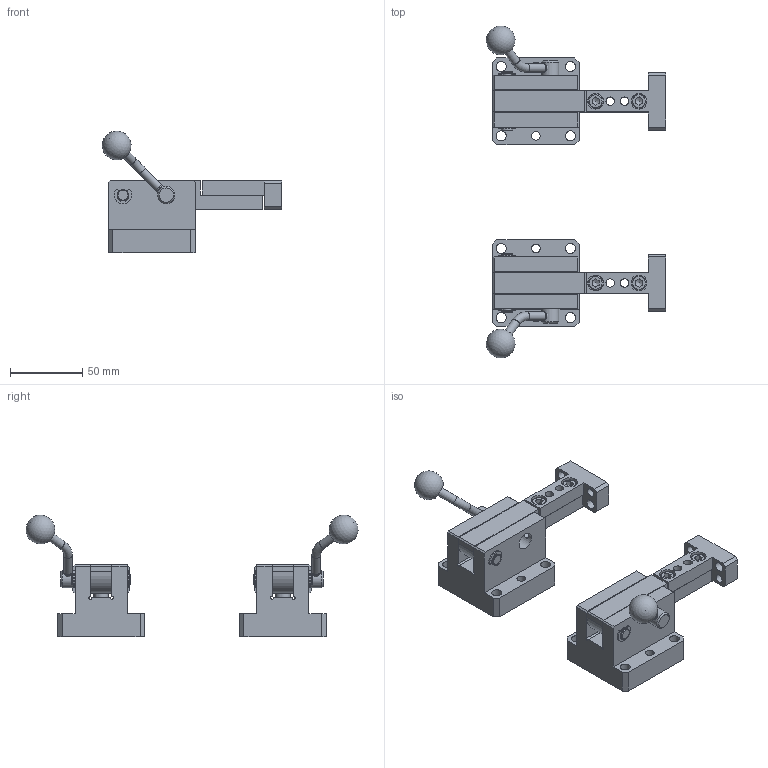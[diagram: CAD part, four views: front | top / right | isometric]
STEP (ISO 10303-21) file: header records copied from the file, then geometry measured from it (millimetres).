
FILE_DESCRIPTION(/* description */ (''),/* implementation_level */ '2;1');
FILE_NAME(/* name */ 'HCFZ-60-E2-L.R.stp',/* time_stamp */ '2018-08-28T11:26:29+08:00',/* author */ (''),/* organization */ (''),/* preprocessor_version */ 'ST-DEVELOPER v16',/* originating_system */ 'SIEMENS PLM Software NX 11.0',/* authorisation */ '');
FILE_SCHEMA (('AUTOMOTIVE_DESIGN { 1 0 10303 214 3 1 1 1 }'));
Length unit declared in the file: millimetre
Products named in the file (1): WSFZT60-L120-Y
Bounding box: 124.33 x 230.1 x 84.34 mm (x, y, z)
Volume: 293515.8 mm3; surface area: 93113.5 mm2
Topology: 44 solids, 44 shells, 688 faces, 1716 edges, 1124 vertices
Faces by surface type: plane 326, cylinder 210, cone 90, torus 38, bspline 16, sphere 8
Full cylindrical faces by diameter (mm): 2.4 x2, 2.458 x4, 2.459 x4, 2.675 x4, 3 x4, 3.2 x4, 4.9 x6, 4.915 x4, 4.917 x4, 5 x10, 5.35 x4, 5.8 x12, 6 x24, 7 x16, 8 x12, 10 x10, 11 x4, 12 x10
Entity records: 22774 total; most frequent: CARTESIAN_POINT 4963, DIRECTION 3070, ORIENTED_EDGE 2732, EDGE_CURVE 1366, AXIS2_PLACEMENT_3D 1221, EDGE_LOOP 1064, VERTEX_POINT 1022, FACE_BOUND 704
